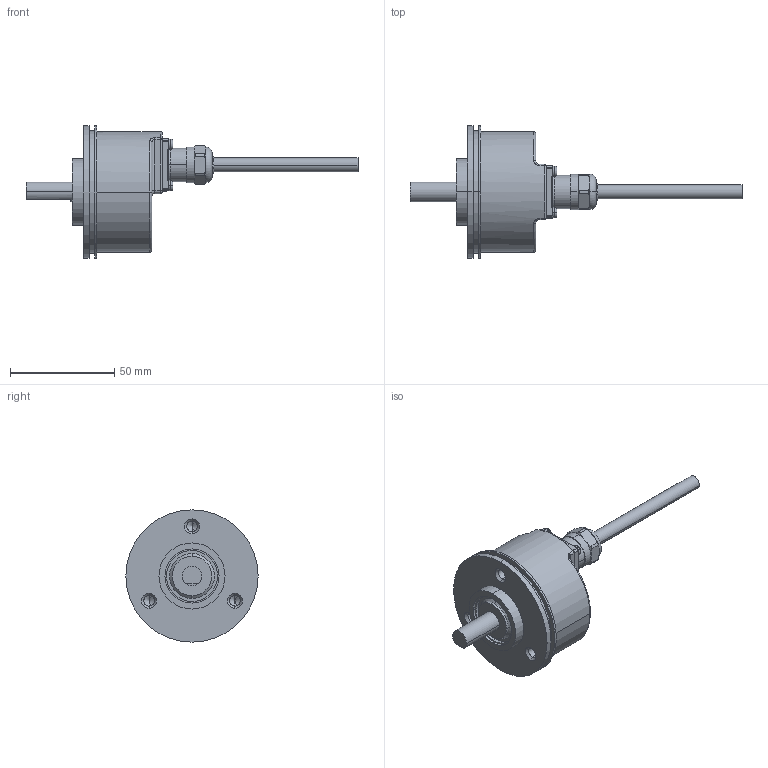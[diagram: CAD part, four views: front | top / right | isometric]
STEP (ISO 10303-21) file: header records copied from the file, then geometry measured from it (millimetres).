
FILE_DESCRIPTION (( 'STEP AP203' ), '1' );
FILE_NAME ('K58I.OXX.XXXXX.XS1V52B.6XA11.XXXX.step', '2025-12-08T15:41:46', ( '' ), ( '' ), 'SwSTEP 2.0', 'SolidWorks 2021', '' );
FILE_SCHEMA (( 'CONFIG_CONTROL_DESIGN' ));
Length unit declared in the file: millimetre
Products named in the file (1): K58I.OXX.XXXXX.XS1V52B.6XA11.XXXX
Bounding box: 159.41 x 63.5 x 63.5 mm (x, y, z)
Volume: 136765.6 mm3; surface area: 35976.7 mm2
Topology: 8 solids, 8 shells, 514 faces, 1261 edges, 785 vertices
Faces by surface type: cylinder 231, plane 138, cone 44, bspline 42, torus 41, sphere 18
Entity records: 17157 total; most frequent: CARTESIAN_POINT 5015, DIRECTION 2612, ORIENTED_EDGE 2510, EDGE_CURVE 1255, AXIS2_PLACEMENT_3D 1048, VERTEX_POINT 785, CIRCLE 575, EDGE_LOOP 554
